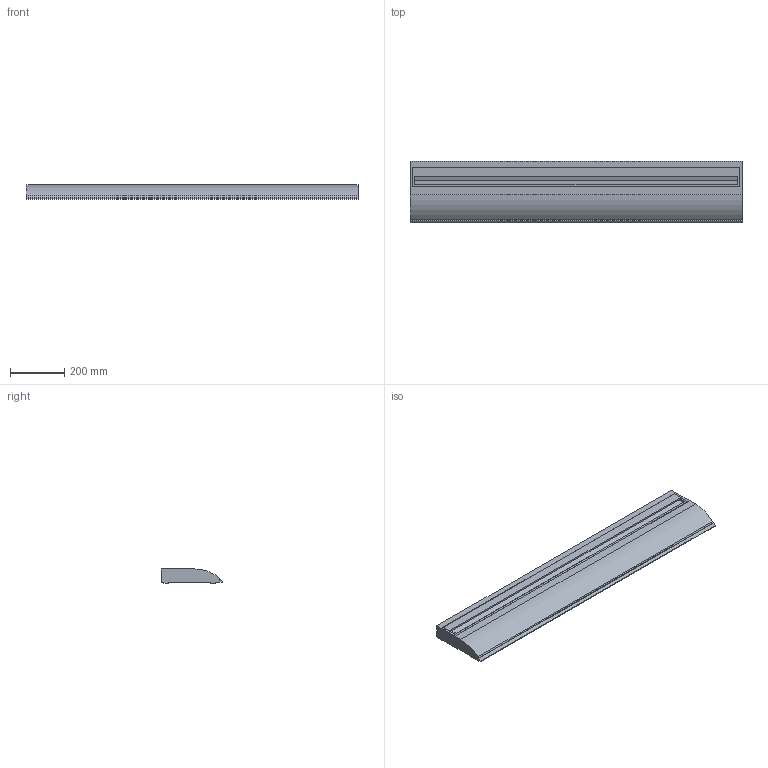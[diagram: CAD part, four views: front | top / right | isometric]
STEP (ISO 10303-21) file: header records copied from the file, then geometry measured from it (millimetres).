
FILE_DESCRIPTION(/* description */ ('Unknown'),/* implementation_level */ '2;1');
FILE_NAME(/* name */ '3D_Footsie2-Slim',/* time_stamp */ '2024-01-11T11:51:13+01:00',/* author */ ('Unknown'),/* organization */ ('Unknown'),/* preprocessor_version */ 'ST-DEVELOPER v18.104',/* originating_system */ 'Solid Edge',/* authorisation */ 'Unknown');
FILE_SCHEMA (('AUTOMOTIVE_DESIGN {1 0 10303 214 3 1 1}'));
Length unit declared in the file: millimetre
Products named in the file (1): 3D_Footsie2-Slim
Bounding box: 1229 x 228.1 x 52 mm (x, y, z)
Volume: 11621594.5 mm3; surface area: 786264.4 mm2
Topology: 1 solids, 1 shells, 46 faces, 123 edges, 82 vertices
Faces by surface type: plane 35, cylinder 11
Entity records: 1459 total; most frequent: CARTESIAN_POINT 252, ORIENTED_EDGE 246, DIRECTION 239, EDGE_CURVE 123, LINE 101, VECTOR 101, VERTEX_POINT 82, AXIS2_PLACEMENT_3D 69
